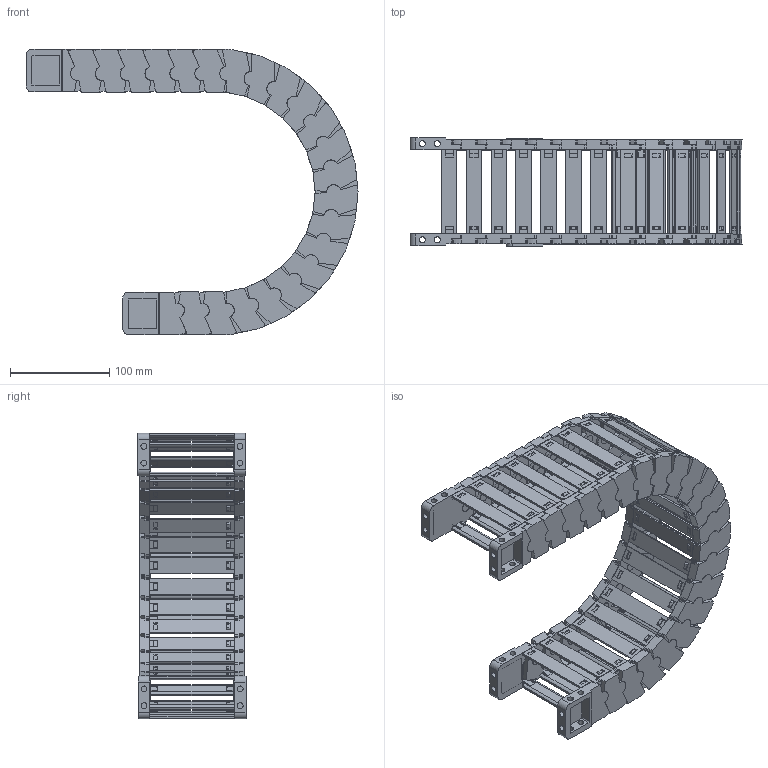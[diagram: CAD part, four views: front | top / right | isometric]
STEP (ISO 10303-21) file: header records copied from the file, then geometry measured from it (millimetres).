
FILE_DESCRIPTION((''),'2;1');
FILE_NAME('JY-35X77-R125_ASM','2025-07-23T15:19:32',('admin'),(''),'CREO PARAMETRIC BY PTC INC, 2021023','CREO PARAMETRIC BY PTC INC, 2021023','');
FILE_SCHEMA(('CONFIG_CONTROL_DESIGN','GEOMETRIC_VALIDATION_PROPERTIES_MIM'));
Length unit declared in the file: millimetre
Products named in the file (12): 35XL-L_1; 25-35XL-YP_1; 35XL-R_1; ASM0001_ASM_1_ASM; 35-LTT-A-L_1; 35-LTT-A-R_1; 35XL-LTT-A_ASM_1_ASM; 35-LTT-B-L_1; 35-LTT-B-R_1; 35XL-LTT-B_ASM_1_ASM; JY-35X77-R125_ASM_1_ASM; JY-35X77-R125_ASM
Assembly tree (37 placements, depth 4):
  JY-35X77-R125_ASM
    JY-35X77-R125_ASM_1_ASM
      ASM0001_ASM_1_ASM  x22
        35XL-L_1
        25-35XL-YP_1
        35XL-R_1
      35XL-LTT-A_ASM_1_ASM
        35-LTT-A-L_1
        25-35XL-YP_1  x2
        35-LTT-A-R_1
      35XL-LTT-B_ASM_1_ASM
        35-LTT-B-L_1
        25-35XL-YP_1  x2
        35-LTT-B-R_1
Bounding box: 334.89 x 109 x 288.09 mm (x, y, z)
Volume: 703550.8 mm3; surface area: 434495.2 mm2
Topology: 96 solids, 96 shells, 4000 faces, 11926 edges, 8076 vertices
Faces by surface type: plane 2808, cylinder 1190, bspline 2
Entity records: 17139 total; most frequent: CARTESIAN_POINT 2809, DIRECTION 2572, ORIENTED_EDGE 2480, EDGE_CURVE 1240, VECTOR 862, LINE 862, AXIS2_PLACEMENT_3D 855, VERTEX_POINT 840
